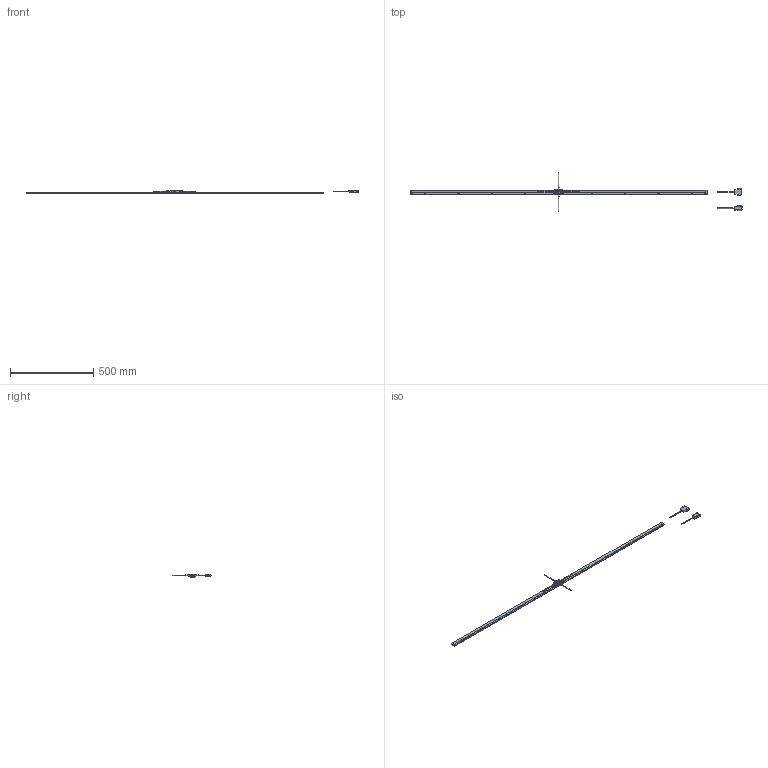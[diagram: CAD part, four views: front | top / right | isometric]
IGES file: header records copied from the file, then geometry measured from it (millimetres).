
Start section: Elysium IGES Interface
Global section: file name: 78H\\Utsu119s\kiyo_cad\data\3D\ST700_小型\HP掲載用_201802\PKG\ABS_ST700-1700A.igs; native system: Creo Elements/Direct Modeling 18.1B  29-Sep-2012; preprocessor: Creo Element/Direct IGES_3D V2.2; author: Unknown; organization: Unknown; date: 20180214.113943; units: millimetre
Bounding box: 1989.3 x 227.7 x 23.3 mm (x, y, z)
Volume: 422364.5 mm3; surface area: 155394 mm2
Topology: 7 solids, 7 shells, 6748 faces, 18449 edges, 12143 vertices
Faces by surface type: bspline 6748
